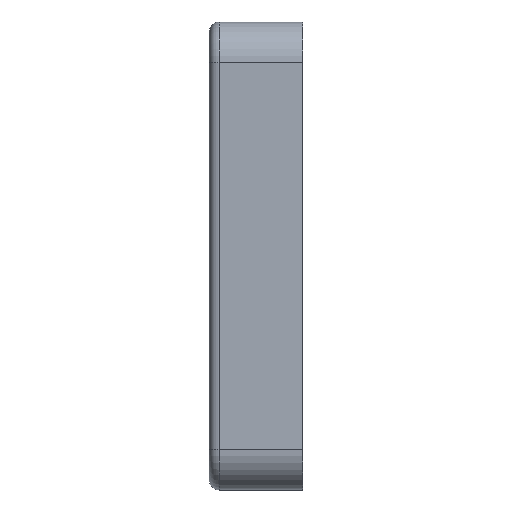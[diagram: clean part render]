
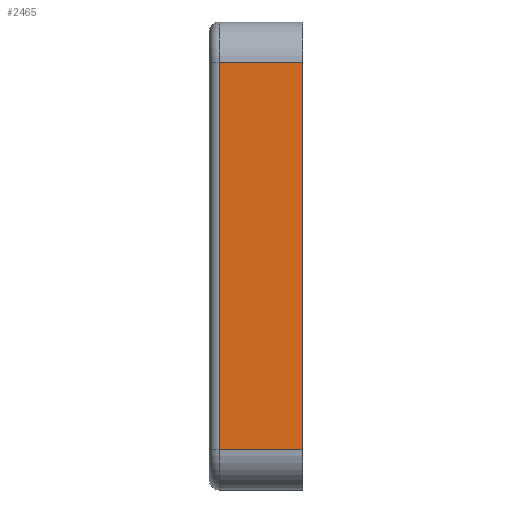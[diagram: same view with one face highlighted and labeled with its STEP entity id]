
A CAD part, left-side view. The second image highlights one B-rep face of the part: STEP entity #2465.
In plain terms, the highlighted planar face has unit normal (-1, 0, 0).
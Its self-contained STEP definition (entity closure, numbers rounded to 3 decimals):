
#394 = CARTESIAN_POINT ( 'NONE',  ( -120., 393.415, -95. ) ) ;
#437 = DIRECTION ( 'NONE',  ( 0., 0., -1. ) ) ;
#635 = DIRECTION ( 'NONE',  ( -1., 0., 0. ) ) ;
#641 = EDGE_LOOP ( 'NONE', ( #3932, #2716, #1349, #3871 ) ) ;
#685 = VERTEX_POINT ( 'NONE', #4001 ) ;
#740 = VECTOR ( 'NONE', #437, 1000. ) ;
#850 = CARTESIAN_POINT ( 'NONE',  ( -120., 15., 95. ) ) ;
#949 = CARTESIAN_POINT ( 'NONE',  ( -120., 393.415, 95. ) ) ;
#1073 = LINE ( 'NONE', #394, #3382 ) ;
#1349 = ORIENTED_EDGE ( 'NONE', *, *, #2060, .T. ) ;
#1603 = CARTESIAN_POINT ( 'NONE',  ( -120., 15., -95. ) ) ;
#1747 = EDGE_CURVE ( 'NONE', #685, #4500, #1894, .T. ) ;
#1887 = VERTEX_POINT ( 'NONE', #1603 ) ;
#1894 = LINE ( 'NONE', #3617, #740 ) ;
#1984 = DIRECTION ( 'NONE',  ( 0., 0., -1. ) ) ;
#2002 = EDGE_CURVE ( 'NONE', #2795, #685, #2935, .T. ) ;
#2049 = FACE_OUTER_BOUND ( 'NONE', #641, .T. ) ;
#2060 = EDGE_CURVE ( 'NONE', #4500, #1887, #1073, .T. ) ;
#2064 = CARTESIAN_POINT ( 'NONE',  ( -120., 56., -95. ) ) ;
#2164 = VECTOR ( 'NONE', #3052, 1000. ) ;
#2353 = CARTESIAN_POINT ( 'NONE',  ( -120., 393.415, -115. ) ) ;
#2465 = ADVANCED_FACE ( 'NONE', ( #2049 ), #4458, .T. ) ;
#2716 = ORIENTED_EDGE ( 'NONE', *, *, #1747, .T. ) ;
#2795 = VERTEX_POINT ( 'NONE', #850 ) ;
#2935 = LINE ( 'NONE', #949, #2164 ) ;
#3052 = DIRECTION ( 'NONE',  ( 0., 1., 0. ) ) ;
#3084 = AXIS2_PLACEMENT_3D ( 'NONE', #2353, #635, #3879 ) ;
#3382 = VECTOR ( 'NONE', #3553, 1000. ) ;
#3553 = DIRECTION ( 'NONE',  ( 0., -1., 0. ) ) ;
#3578 = LINE ( 'NONE', #4089, #3677 ) ;
#3617 = CARTESIAN_POINT ( 'NONE',  ( -120., 56., -115. ) ) ;
#3677 = VECTOR ( 'NONE', #1984, 1000. ) ;
#3827 = EDGE_CURVE ( 'NONE', #2795, #1887, #3578, .T. ) ;
#3871 = ORIENTED_EDGE ( 'NONE', *, *, #3827, .F. ) ;
#3879 = DIRECTION ( 'NONE',  ( 0., 0., 1. ) ) ;
#3932 = ORIENTED_EDGE ( 'NONE', *, *, #2002, .T. ) ;
#4001 = CARTESIAN_POINT ( 'NONE',  ( -120., 56., 95. ) ) ;
#4089 = CARTESIAN_POINT ( 'NONE',  ( -120., 15., -115. ) ) ;
#4458 = PLANE ( 'NONE',  #3084 ) ;
#4500 = VERTEX_POINT ( 'NONE', #2064 ) ;
